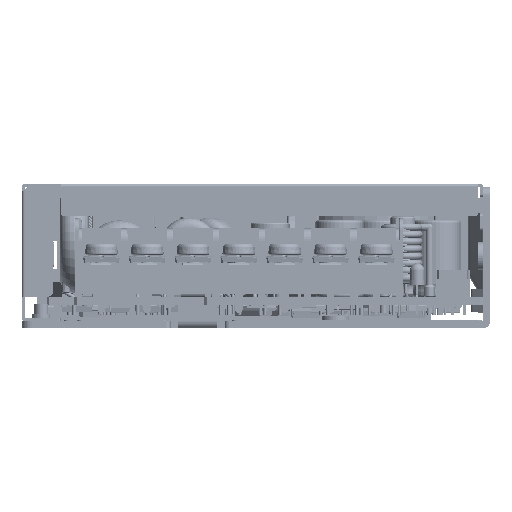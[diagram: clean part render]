
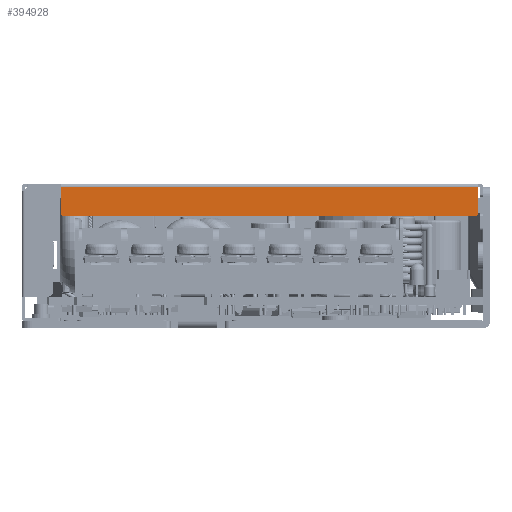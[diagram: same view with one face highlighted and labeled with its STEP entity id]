
A CAD part, left-side view. The second image highlights one B-rep face of the part: STEP entity #394928.
In plain terms, the highlighted planar face has unit normal (-1, 0, 0) as drawn and (0, -1, 0) by its records, which use the part's own axes.
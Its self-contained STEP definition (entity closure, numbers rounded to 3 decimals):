
#382453=CARTESIAN_POINT('',(-5.6,-68.6,-46.25));
#382454=DIRECTION('',(0.,1.,0.));
#382455=DIRECTION('',(0.,0.,-1.));
#382456=AXIS2_PLACEMENT_3D('',#382453,#382454,#382455);
#382461=DIRECTION('',(0.,0.,1.));
#382462=VECTOR('',#382461,85.5);
#382463=CARTESIAN_POINT('',(-6.1,-68.6,-46.25));
#382464=LINE('',#382463,#382462);
#382468=CARTESIAN_POINT('',(-5.6,-68.6,39.25));
#382469=DIRECTION('',(0.,1.,0.));
#382470=DIRECTION('',(-1.,0.,0.));
#382471=AXIS2_PLACEMENT_3D('',#382468,#382469,#382470);
#382476=DIRECTION('',(1.,0.,0.));
#382477=VECTOR('',#382476,5.6);
#382478=CARTESIAN_POINT('',(-5.6,-68.6,39.75));
#382479=LINE('',#382478,#382477);
#382483=DIRECTION('',(-1.,0.,0.));
#382484=VECTOR('',#382483,5.6);
#382485=CARTESIAN_POINT('',(0.,-68.6,-46.75));
#382486=LINE('',#382485,#382484);
#382563=DIRECTION('',(0.,0.,1.));
#382564=VECTOR('',#382563,86.5);
#382565=CARTESIAN_POINT('',(0.,-68.6,-46.75));
#382566=LINE('',#382565,#382564);
#387624=CARTESIAN_POINT('',(0.,-68.6,-46.75));
#387625=VERTEX_POINT('',#387624);
#387626=CARTESIAN_POINT('',(-5.6,-68.6,-46.75));
#387628=VERTEX_POINT('',#387626);
#387630=CARTESIAN_POINT('',(-6.1,-68.6,-46.25));
#387631=VERTEX_POINT('',#387630);
#387634=CARTESIAN_POINT('',(-6.1,-68.6,39.25));
#387635=VERTEX_POINT('',#387634);
#387636=CARTESIAN_POINT('',(-5.6,-68.6,39.75));
#387637=VERTEX_POINT('',#387636);
#387638=CARTESIAN_POINT('',(0.,-68.6,39.75));
#387639=VERTEX_POINT('',#387638);
#394911=CARTESIAN_POINT('',(0.6,-68.6,46.75));
#394912=DIRECTION('',(0.,-1.,0.));
#394913=DIRECTION('',(0.,0.,1.));
#394914=AXIS2_PLACEMENT_3D('',#394911,#394912,#394913);
#394915=PLANE('',#394914);
#394916=ORIENTED_EDGE('',*,*,#394901,.T.);
#394918=ORIENTED_EDGE('',*,*,#394917,.T.);
#394920=ORIENTED_EDGE('',*,*,#394919,.T.);
#394922=ORIENTED_EDGE('',*,*,#394921,.T.);
#394924=ORIENTED_EDGE('',*,*,#394923,.F.);
#394925=ORIENTED_EDGE('',*,*,#394888,.T.);
#394926=EDGE_LOOP('',(#394916,#394918,#394920,#394922,#394924,#394925));
#394927=FACE_OUTER_BOUND('',#394926,.F.);
#394928=ADVANCED_FACE('',(#394927),#394915,.T.);
#382457=CIRCLE('',#382456,0.5);
#382472=CIRCLE('',#382471,0.5);
#394888=EDGE_CURVE('',#387625,#387628,#382486,.T.);
#394901=EDGE_CURVE('',#387628,#387631,#382457,.T.);
#394917=EDGE_CURVE('',#387631,#387635,#382464,.T.);
#394919=EDGE_CURVE('',#387635,#387637,#382472,.T.);
#394921=EDGE_CURVE('',#387637,#387639,#382479,.T.);
#394923=EDGE_CURVE('',#387625,#387639,#382566,.T.);
